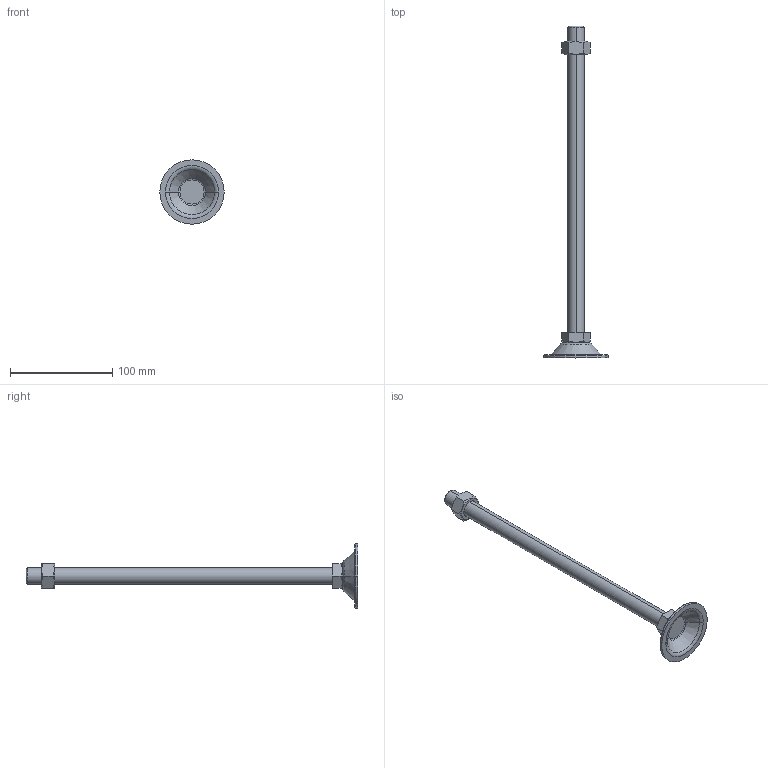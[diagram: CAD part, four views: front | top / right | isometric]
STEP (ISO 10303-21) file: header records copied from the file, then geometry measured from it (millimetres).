
FILE_DESCRIPTION (( 'STEP AP214' ), '1' );
FILE_NAME ('BL63-M16-300.step', '2021-01-06T05:39:19', ( '' ), ( '' ), 'SwSTEP 2.0', 'SolidWorks 2019', '' );
FILE_SCHEMA (( 'AUTOMOTIVE_DESIGN' ));
Length unit declared in the file: millimetre
Products named in the file (1): BL63-M16-300
Bounding box: 63 x 325 x 63 mm (x, y, z)
Volume: 80075.2 mm3; surface area: 26946.2 mm2
Topology: 3 solids, 3 shells, 53 faces, 110 edges, 66 vertices
Faces by surface type: plane 21, cone 16, torus 10, cylinder 6
Entity records: 1618 total; most frequent: CARTESIAN_POINT 428, DIRECTION 252, ORIENTED_EDGE 220, EDGE_CURVE 110, AXIS2_PLACEMENT_3D 106, VERTEX_POINT 66, EDGE_LOOP 58, ADVANCED_FACE 53
